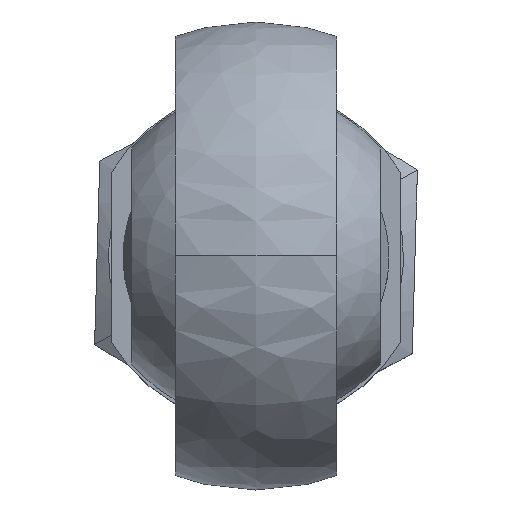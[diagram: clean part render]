
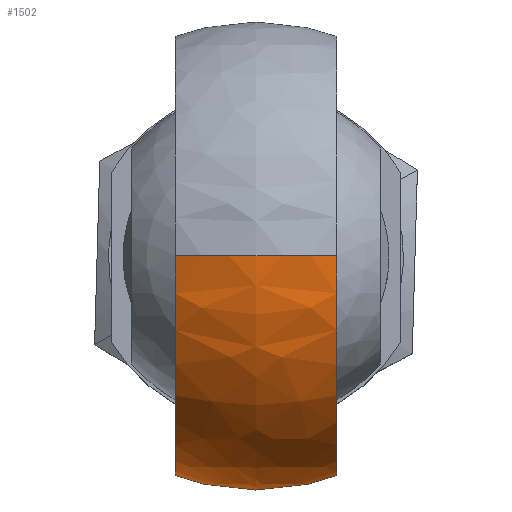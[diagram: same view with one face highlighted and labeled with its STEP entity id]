
A CAD part, top view. The second image highlights one B-rep face of the part: STEP entity #1502.
In plain terms, the highlighted spherical face has radius 40.5 mm.
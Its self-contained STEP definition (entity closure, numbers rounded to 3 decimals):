
#30 = ORIENTED_EDGE ( 'NONE', *, *, #302, .T. ) ;
#70 = AXIS2_PLACEMENT_3D ( 'NONE', #162, #543, #178 ) ;
#97 = AXIS2_PLACEMENT_3D ( 'NONE', #421, #1051, #414 ) ;
#120 = DIRECTION ( 'NONE',  ( 0., -1., 0. ) ) ;
#162 = CARTESIAN_POINT ( 'NONE',  ( -14., 0., 399.5 ) ) ;
#168 = ORIENTED_EDGE ( 'NONE', *, *, #520, .T. ) ;
#178 = DIRECTION ( 'NONE',  ( 0., 0., -1. ) ) ;
#199 = AXIS2_PLACEMENT_3D ( 'NONE', #1446, #1058, #831 ) ;
#227 = VERTEX_POINT ( 'NONE', #756 ) ;
#252 = CARTESIAN_POINT ( 'NONE',  ( 0., 0., 399.5 ) ) ;
#302 = EDGE_CURVE ( 'NONE', #1054, #227, #1460, .T. ) ;
#320 = EDGE_LOOP ( 'NONE', ( #168, #907, #30, #759 ) ) ;
#387 = CARTESIAN_POINT ( 'NONE',  ( 0., 0., 399.5 ) ) ;
#406 = CARTESIAN_POINT ( 'NONE',  ( 14., 0., 437.503 ) ) ;
#414 = DIRECTION ( 'NONE',  ( 0., -1., 0. ) ) ;
#421 = CARTESIAN_POINT ( 'NONE',  ( 0., 0., 371.01 ) ) ;
#433 = AXIS2_PLACEMENT_3D ( 'NONE', #252, #120, #1000 ) ;
#520 = EDGE_CURVE ( 'NONE', #1476, #853, #1534, .T. ) ;
#543 = DIRECTION ( 'NONE',  ( 1., 0., 0. ) ) ;
#632 = DIRECTION ( 'NONE',  ( 0., 1., 0. ) ) ;
#738 = AXIS2_PLACEMENT_3D ( 'NONE', #387, #632, #1356 ) ;
#756 = CARTESIAN_POINT ( 'NONE',  ( -14., -25.151, 371.01 ) ) ;
#759 = ORIENTED_EDGE ( 'NONE', *, *, #925, .F. ) ;
#831 = DIRECTION ( 'NONE',  ( 0., 0., 1. ) ) ;
#853 = VERTEX_POINT ( 'NONE', #406 ) ;
#907 = ORIENTED_EDGE ( 'NONE', *, *, #1153, .T. ) ;
#925 = EDGE_CURVE ( 'NONE', #1476, #227, #1169, .T. ) ;
#972 = SPHERICAL_SURFACE ( 'NONE', #738, 40.5 ) ;
#1000 = DIRECTION ( 'NONE',  ( 0., 0., -1. ) ) ;
#1051 = DIRECTION ( 'NONE',  ( 0., 0., -1. ) ) ;
#1054 = VERTEX_POINT ( 'NONE', #1315 ) ;
#1058 = DIRECTION ( 'NONE',  ( -1., 0., 0. ) ) ;
#1153 = EDGE_CURVE ( 'NONE', #853, #1054, #1406, .T. ) ;
#1169 = CIRCLE ( 'NONE', #97, 28.785 ) ;
#1224 = CARTESIAN_POINT ( 'NONE',  ( 14., -25.151, 371.01 ) ) ;
#1237 = FACE_OUTER_BOUND ( 'NONE', #320, .T. ) ;
#1315 = CARTESIAN_POINT ( 'NONE',  ( -14., 0., 437.503 ) ) ;
#1356 = DIRECTION ( 'NONE',  ( 0., 0., 1. ) ) ;
#1406 = CIRCLE ( 'NONE', #433, 40.5 ) ;
#1446 = CARTESIAN_POINT ( 'NONE',  ( 14., 0., 399.5 ) ) ;
#1460 = CIRCLE ( 'NONE', #70, 38.003 ) ;
#1476 = VERTEX_POINT ( 'NONE', #1224 ) ;
#1502 = ADVANCED_FACE ( 'NONE', ( #1237 ), #972, .T. ) ;
#1534 = CIRCLE ( 'NONE', #199, 38.003 ) ;
